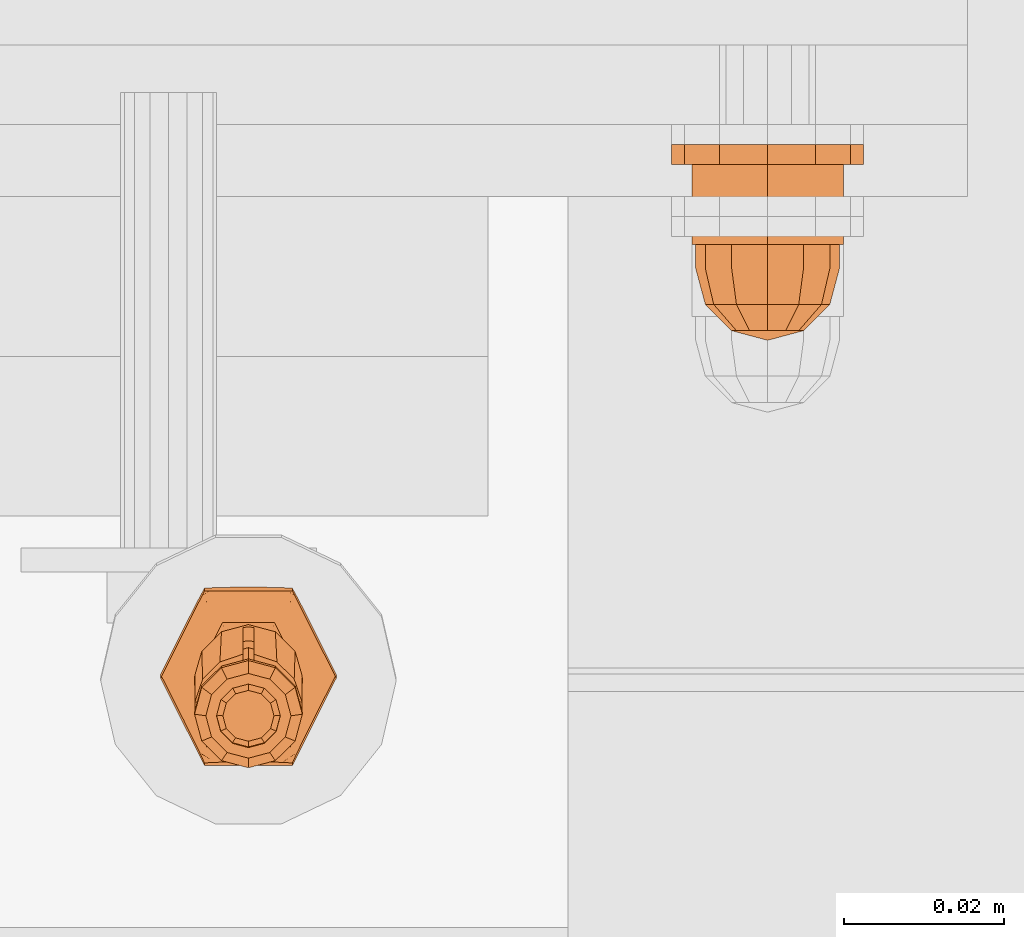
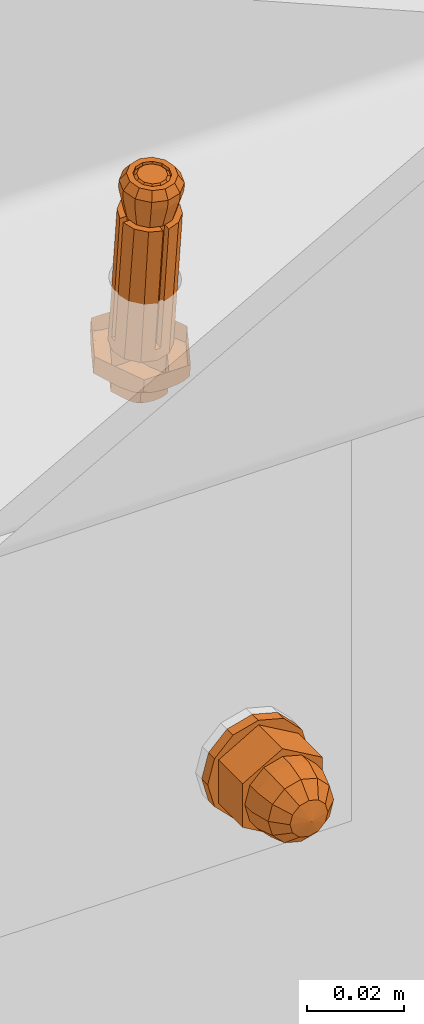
# One storey, part 147 of 162: 3 proxies.
"""IFC2X3 building model written with IfcOpenShell, lengths in millimetres."""

from ifc_helpers import new_model, entity, si_unit, converted_unit, origin_with_axes, place, context, project, spatial, faceted_brep, material, element, save


model = new_model("IFC2X3")

# Units and contexts
model_context = context("Model", 3, precision=1e-09, world=origin_with_axes())
ifc_project = project(units=[si_unit("LENGTHUNIT", "METRE", prefix="MILLI"), si_unit("AREAUNIT", "SQUARE_METRE"), si_unit("VOLUMEUNIT", "CUBIC_METRE"), converted_unit("PLANEANGLEUNIT", "DEGREE", entity("IfcPlaneAngleMeasure", 0.01745329), si_unit("PLANEANGLEUNIT", "RADIAN"), dimensions=[0, 0, 0, 0, 0, 0, 0])], contexts=[model_context])

# Site, building, storey
site_placement = place(None, origin_with_axes())
site = spatial("IfcSite", under=ifc_project, at=site_placement, Name="Hermannstra?e 1a, 60318 Frankfurt", CompositionType="ELEMENT")
building_placement = place(site_placement, origin_with_axes())
building = spatial("IfcBuilding", under=site, at=building_placement, Name="Struktur 1", CompositionType="ELEMENT")
storey_placement = place(building_placement, origin_with_axes())
storey = spatial("IfcBuildingStorey", under=building, at=storey_placement, Name="Default Storey", CompositionType="ELEMENT", Elevation=0.0)

# Proxies
ifc_material_1 = material(Name="S235JR")
proxy_1_placement = place(None, origin_with_axes())
element("IfcBuildingElementProxy", 1, at=proxy_1_placement, inside=storey, material=ifc_material_1, ObjectType="-", context=model_context, shape_type="Brep", body=[
    faceted_brep([(5637.309364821, 2645.676765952, 17429.830818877), (5636.509364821, 2645.593143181, 17430.626436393), (5636.080646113, 2644.001908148, 17430.459190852), (5636.773466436, 2643.687722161, 17429.621761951), (5634.909364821, 2642.837043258, 17430.336758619), (5635.309364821, 2642.231641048, 17429.468721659), (5631.709364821, 2648.349243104, 17430.916114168), (5630.538083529, 2647.184378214, 17430.793681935), (5630.109364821, 2645.593143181, 17430.626436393), (5630.538083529, 2644.001908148, 17430.459190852), (5631.709364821, 2642.837043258, 17430.336758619), (5633.309364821, 2642.410673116, 17430.291945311), (5636.080646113, 2647.184378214, 17430.793681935), (5634.909364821, 2648.349243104, 17430.916114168), (5633.309364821, 2648.775613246, 17430.960927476), (5636.773466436, 2647.665809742, 17430.039875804), (5633.309364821, 2641.69867837, 17429.412705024), (5637.309364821, 2650.150584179, 17387.265281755), (5636.773466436, 2648.161540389, 17387.056224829), (5636.773466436, 2652.13962797, 17387.474338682), (5635.309364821, 2649.121890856, 17430.192916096), (5635.309364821, 2646.705459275, 17386.903184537), (5629.845263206, 2643.687722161, 17429.621761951), (5629.309364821, 2645.676765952, 17429.830818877), (5631.309364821, 2642.231641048, 17429.468721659), (5633.309364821, 2649.654853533, 17430.24893273), (5631.309364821, 2649.121890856, 17430.192916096), (5629.845263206, 2647.665809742, 17430.039875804), (5635.309364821, 2653.595709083, 17387.627378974), (5633.309364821, 2646.172496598, 17386.847167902), (5637.63949184, 2647.664279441, 17387.003960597), (5638.309364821, 2650.150584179, 17387.265281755), (5637.63949184, 2652.636888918, 17387.526602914), (5635.809364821, 2654.456990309, 17387.717903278), (5633.309364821, 2655.123193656, 17387.787924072), (5630.809364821, 2654.456990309, 17387.717903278), (5628.979237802, 2652.636888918, 17387.526602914), (5628.309364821, 2650.150584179, 17387.265281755), (5628.979237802, 2647.664279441, 17387.003960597), (5630.809364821, 2645.844178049, 17386.812660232), (5633.309364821, 2645.177974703, 17386.742639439), (5635.809364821, 2645.844178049, 17386.812660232), (5631.309364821, 2646.705459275, 17386.903184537), (5629.845263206, 2648.161540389, 17387.056224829), (5629.309364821, 2650.150584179, 17387.265281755), (5629.845263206, 2652.13962797, 17387.474338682), (5631.309364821, 2653.595709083, 17387.627378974), (5633.309364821, 2654.128671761, 17387.683395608), (5638.263592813, 2649.312036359, 17388.785960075), (5638.263592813, 2650.654640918, 17388.927073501), (5637.522275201, 2649.316515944, 17420.962695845), (5636.002204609, 2650.82825943, 17421.121586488), (5638.263592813, 2645.967125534, 17420.610660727), (5637.522275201, 2643.960339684, 17420.399739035), (5636.002204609, 2642.448596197, 17420.240848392), (5638.304272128, 2649.758962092, 17388.832933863), (5638.304272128, 2650.207715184, 17388.880099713), (5638.263592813, 2647.309730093, 17420.751774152), (5633.984364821, 2651.565516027, 17421.199075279), (5633.984364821, 2654.910426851, 17389.374374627), (5636.877629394, 2640.940070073, 17420.082295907), (5639.039110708, 2643.089710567, 17420.308232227), (5640.025530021, 2645.967125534, 17420.610660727), (5633.984364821, 2641.711339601, 17420.163359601), (5633.984364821, 2639.959054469, 17419.979187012), (5633.984364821, 2645.056250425, 17388.338658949), (5640.025530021, 2649.312036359, 17388.785960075), (5640.055602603, 2649.759238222, 17388.832962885), (5640.055602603, 2650.207439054, 17388.880070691), (5640.025530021, 2650.654640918, 17388.927073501), (5632.634364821, 2645.056250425, 17388.338658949), (5632.634364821, 2654.910426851, 17389.374374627), (5640.025530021, 2647.309730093, 17420.751774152), (5639.039110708, 2650.18714506, 17421.054202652), (5636.877629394, 2652.336785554, 17421.280138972), (5633.984364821, 2653.317801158, 17421.383247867), (5633.534977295, 2654.950883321, 17389.378626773), (5633.083752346, 2654.950883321, 17389.378626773), (5633.534977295, 2645.015793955, 17388.334406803), (5628.355136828, 2649.312036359, 17388.785960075), (5633.083752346, 2645.015793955, 17388.334406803), (5629.09645444, 2643.960339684, 17420.399739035), (5630.616525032, 2642.448596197, 17420.240848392), (5632.634364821, 2641.711339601, 17420.163359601), (5632.634364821, 2651.565516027, 17421.199075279), (5630.616525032, 2650.82825943, 17421.121586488), (5629.09645444, 2649.316515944, 17420.962695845), (5628.355136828, 2647.309730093, 17420.751774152), (5628.355136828, 2650.654640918, 17388.927073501), (5640.059364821, 2650.306426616, 17385.78254002), (5633.984364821, 2656.662711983, 17389.558547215), (5633.534699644, 2656.692619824, 17389.561690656), (5633.084029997, 2656.692619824, 17389.561690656), (5632.634364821, 2656.662711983, 17389.558547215), (5639.155036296, 2646.949915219, 17385.429756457), (5632.634364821, 2643.303965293, 17388.154486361), (5633.084029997, 2643.274057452, 17388.15134292), (5633.534699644, 2643.274057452, 17388.15134292), (5633.984364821, 2643.303965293, 17388.154486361), (5628.314457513, 2649.758962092, 17388.832933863), (5628.355136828, 2645.967125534, 17420.610660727), (5632.634364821, 2639.959054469, 17419.979187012), (5632.634364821, 2653.317801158, 17421.383247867), (5629.741100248, 2652.336785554, 17421.280138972), (5627.579618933, 2650.18714506, 17421.054202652), (5626.59319962, 2647.309730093, 17420.751774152), (5628.314457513, 2650.207715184, 17388.880099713), (5639.155036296, 2653.662938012, 17386.135323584), (5636.684364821, 2656.120074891, 17386.393579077), (5636.684364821, 2644.49277834, 17385.171500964), (5626.59319962, 2650.654640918, 17388.927073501), (5626.563127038, 2650.207439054, 17388.880070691), (5626.563127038, 2649.759238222, 17388.832962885), (5626.59319962, 2649.312036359, 17388.785960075), (5626.59319962, 2645.967125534, 17420.610660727), (5633.309364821, 2643.593403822, 17385.076972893), (5627.579618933, 2643.089710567, 17420.308232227), (5629.741100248, 2640.940070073, 17420.082295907), (5633.309364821, 2657.019449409, 17386.488107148), (5629.934364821, 2644.49277834, 17385.171500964), (5627.463693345, 2646.949915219, 17385.429756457), (5626.559364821, 2650.306426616, 17385.78254002), (5627.463693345, 2653.662938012, 17386.135323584), (5629.934364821, 2656.120074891, 17386.393579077), (5637.576718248, 2639.76612164, 17380.83234845), (5639.379229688, 2640.92273113, 17380.731479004), (5638.809364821, 2639.689819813, 17381.55831184), (5639.092840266, 2640.767734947, 17380.704156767), (5640.033375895, 2642.275185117, 17380.379874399), (5641.472980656, 2645.172295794, 17380.360449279), (5644.309364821, 2650.773352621, 17381.340035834), (5644.309364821, 2650.306426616, 17385.78254002), (5638.809364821, 2639.366685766, 17384.632726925), (5627.809364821, 2639.689819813, 17381.55831184), (5629.042011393, 2639.76612164, 17380.83234845), (5630.418054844, 2639.807365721, 17380.439937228), (5633.309364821, 2639.833611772, 17380.190222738), (5636.200674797, 2639.807365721, 17380.439937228), (5627.809364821, 2639.366685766, 17384.632726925), (5638.578445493, 2641.720111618, 17380.166489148), (5641.472980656, 2656.455680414, 17381.546380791), (5640.033375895, 2659.285443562, 17382.167724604), (5639.379229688, 2660.535240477, 17382.7928368), (5638.809364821, 2661.569301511, 17383.857938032), (5638.809364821, 2661.246167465, 17386.932353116), (5643.847526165, 2650.79643214, 17381.120448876), (5637.576718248, 2661.645603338, 17383.131974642), (5630.418054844, 2661.686847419, 17382.73956342), (5629.042011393, 2661.645603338, 17383.131974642), (5627.809364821, 2661.569301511, 17383.857938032), (5627.809364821, 2661.246167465, 17386.932353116), (5636.200674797, 2661.686847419, 17382.73956342), (5633.309364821, 2661.71309347, 17382.48984893), (5633.309364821, 2640.315999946, 17380.018911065), (5627.239499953, 2640.92273113, 17380.731479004), (5627.525889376, 2640.767734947, 17380.704156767), (5637.984364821, 2642.766586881, 17380.053939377), (5642.659364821, 2650.819566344, 17380.900341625), (5639.092840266, 2660.692530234, 17382.798337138), (5625.145748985, 2645.172295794, 17380.360449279), (5626.585353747, 2642.275185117, 17380.379874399), (5622.309364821, 2650.306426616, 17385.78254002), (5622.309364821, 2650.773352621, 17381.340035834), (5628.040284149, 2641.720111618, 17380.166489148), (5641.406702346, 2646.170176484, 17380.411671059), (5633.309364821, 2641.520786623, 17379.923000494), (5638.578445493, 2659.872752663, 17382.074408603), (5627.525889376, 2660.692530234, 17382.798337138), (5627.239499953, 2660.535240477, 17382.7928368), (5625.145748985, 2656.455680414, 17381.546380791), (5626.585353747, 2659.285443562, 17382.167724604), (5628.634364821, 2642.766586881, 17380.053939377), (5625.212027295, 2646.170176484, 17380.411671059), (5623.959364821, 2650.819566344, 17380.900341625), (5625.212027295, 2655.468956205, 17381.389012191), (5628.634364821, 2658.872545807, 17381.746743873), (5633.309364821, 2660.118346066, 17381.877682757), (5637.984364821, 2658.872545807, 17381.746743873), (5641.406702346, 2655.468956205, 17381.389012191), (5636.559364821, 2644.355174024, 17380.220906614), (5639.809364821, 2650.819566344, 17380.900341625), (5636.559364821, 2657.283958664, 17381.579776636), (5630.059364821, 2657.283958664, 17381.579776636), (5626.809364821, 2650.819566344, 17380.900341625), (5630.059364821, 2644.355174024, 17380.220906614), (5635.830982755, 2644.956967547, 17374.49522371), (5636.896103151, 2645.64041861, 17374.435619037), (5636.559364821, 2644.911880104, 17374.924202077), (5637.282644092, 2646.439595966, 17374.227852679), (5638.133319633, 2648.151525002, 17374.216374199), (5639.809364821, 2651.4612404, 17374.7952208), (5633.309364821, 2661.276864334, 17382.221986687), (5628.040284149, 2659.872752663, 17382.074408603), (5630.787746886, 2644.956967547, 17374.49522371), (5631.600863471, 2644.98133905, 17374.263344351), (5633.309364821, 2644.99684808, 17374.115785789), (5635.01786617, 2644.98133905, 17374.263344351), (5630.059364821, 2644.911880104, 17374.924202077), (5636.726873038, 2645.548829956, 17374.419474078), (5639.53646016, 2651.474878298, 17374.66546487), (5622.771203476, 2650.79643214, 17381.120448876), (5636.422912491, 2646.111597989, 17374.101761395), (5638.834364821, 2651.488548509, 17374.535401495), (5638.133319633, 2654.818979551, 17374.917151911), (5636.559364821, 2657.840664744, 17376.283072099), (5637.282644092, 2656.49111232, 17375.284309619), (5636.896103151, 2657.229628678, 17375.653694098), (5638.094155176, 2648.741181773, 17374.246641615), (5635.830982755, 2657.885752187, 17375.854093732), (5635.01786617, 2657.91012369, 17375.622214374), (5633.309364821, 2657.92563272, 17375.474655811), (5631.600863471, 2657.91012369, 17375.622214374), (5630.787746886, 2657.885752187, 17375.854093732), (5630.059364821, 2657.840664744, 17376.283072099), (5629.72262649, 2645.64041861, 17374.435619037), (5633.309364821, 2645.281895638, 17374.014556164), (5636.071864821, 2646.729969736, 17374.035254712), (5628.524574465, 2654.235915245, 17374.824161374), (5630.546864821, 2656.247127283, 17375.035548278), (5633.309364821, 2656.983281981, 17375.112921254), (5636.071864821, 2656.247127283, 17375.035548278), (5638.094155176, 2654.235915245, 17374.824161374), (5633.309364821, 2645.993815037, 17373.957881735), (5630.546864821, 2646.729969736, 17374.035254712), (5628.524574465, 2648.741181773, 17374.246641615), (5627.784364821, 2651.488548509, 17374.535401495), (5636.726873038, 2657.322572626, 17375.656944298), (5629.891856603, 2645.548829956, 17374.419474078), (5628.485410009, 2648.151525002, 17374.216374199), (5629.33608555, 2646.439595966, 17374.227852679), (5626.809364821, 2651.4612404, 17374.7952208), (5636.422912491, 2656.838158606, 17375.229168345), (5629.72262649, 2657.229628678, 17375.653694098), (5630.195817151, 2646.111597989, 17374.101761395), (5633.309364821, 2657.667860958, 17375.316373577), (5629.891856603, 2657.322572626, 17375.656944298), (5629.33608555, 2656.49111232, 17375.284309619), (5628.485410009, 2654.818979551, 17374.917151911), (5630.195817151, 2656.838158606, 17375.229168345), (5627.082269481, 2651.474878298, 17374.66546487)], [[[0, 1, 2, 3]], [[3, 2, 4, 5]], [[6, 7, 8, 9, 10, 11, 4, 2, 1, 12, 13, 14]], [[1, 0, 15, 12]], [[5, 4, 11, 16]], [[17, 0, 3, 18]], [[19, 15, 0, 17]], [[12, 15, 20, 13]], [[18, 3, 5, 21]], [[22, 9, 8, 23]], [[24, 10, 9, 22]], [[16, 11, 10, 24]], [[25, 14, 13, 20]], [[26, 6, 14, 25]], [[27, 7, 6, 26]], [[23, 8, 7, 27]], [[15, 19, 28, 20]], [[21, 5, 16, 29]], [[30, 31, 32, 33, 34, 35, 36, 37, 38, 39, 40, 41], [21, 29, 42, 43, 44, 45, 46, 47, 28, 19, 17, 18]], [[20, 28, 47, 25]], [[43, 22, 23, 44]], [[42, 24, 22, 43]], [[29, 16, 24, 42]], [[46, 26, 25, 47]], [[45, 27, 26, 46]], [[44, 23, 27, 45]], [[31, 30, 48]], [[32, 31, 49]], [[33, 32, 50, 51]], [[52, 30, 53]], [[30, 41, 54, 53]], [[48, 30, 52]], [[55, 31, 48]], [[56, 31, 55]], [[49, 31, 56]], [[57, 32, 49]], [[50, 32, 57]], [[58, 33, 51]], [[34, 33, 59]], [[60, 61, 62, 52, 53, 54, 63, 64]], [[41, 40, 65]], [[54, 41, 63]], [[48, 52, 62, 66]], [[56, 55, 48, 66, 67, 68, 69, 49]], [[40, 39, 70]], [[35, 34, 71]], [[57, 49, 69, 72]], [[73, 74, 75, 58, 51, 50, 57, 72]], [[59, 33, 58]], [[76, 34, 59]], [[77, 34, 76]], [[65, 40, 78]], [[63, 41, 65]], [[38, 37, 79]], [[80, 40, 70]], [[78, 40, 80]], [[39, 38, 81, 82]], [[70, 39, 83]], [[71, 34, 77]], [[84, 35, 71]], [[36, 35, 85, 86]], [[87, 36, 86]], [[37, 36, 88]], [[68, 67, 89]], [[59, 58, 75, 90]], [[77, 76, 59, 90, 91, 92, 93, 71]], [[62, 61, 94]], [[95, 96, 97, 98, 65, 78, 80, 70]], [[63, 65, 98, 64]], [[94, 66, 62]], [[67, 66, 89]], [[79, 37, 99]], [[100, 38, 79]], [[81, 38, 100]], [[70, 83, 101, 95]], [[83, 39, 82]], [[84, 71, 93, 102]], [[85, 35, 84]], [[103, 104, 105, 87, 86, 85, 84, 102]], [[88, 36, 87]], [[106, 37, 88]], [[99, 37, 106]], [[89, 69, 68]], [[72, 69, 107]], [[73, 72, 107]], [[108, 74, 73, 107]], [[75, 74, 108]], [[94, 61, 60, 109]], [[60, 64, 109]], [[89, 66, 94]], [[110, 111, 112, 113, 79, 99, 106, 88]], [[100, 79, 113, 114]], [[97, 96, 115]], [[116, 117, 101, 83, 82, 81, 100, 114]], [[92, 91, 118]], [[88, 87, 105, 110]], [[107, 69, 89]], [[108, 90, 75]], [[91, 90, 118]], [[115, 98, 97]], [[64, 98, 109]], [[94, 109, 115, 119, 120, 121, 122, 123, 118, 108, 107, 89]], [[119, 95, 101]], [[96, 95, 115]], [[101, 117, 119]], [[118, 93, 92]], [[102, 93, 123]], [[105, 104, 122]], [[112, 111, 121]], [[118, 90, 108]], [[109, 98, 115]], [[121, 113, 112]], [[114, 113, 120]], [[115, 95, 119]], [[116, 114, 120]], [[119, 117, 116, 120]], [[124, 125, 126]], [[127, 125, 124]], [[127, 128, 125]], [[129, 130, 131, 132, 126, 125, 128]], [[123, 93, 118]], [[103, 102, 123]], [[122, 104, 103, 123]], [[122, 110, 105]], [[111, 110, 121]], [[120, 113, 121]], [[133, 134, 135, 136, 137, 124, 126, 132, 138]], [[137, 127, 124]], [[139, 128, 127]], [[121, 110, 122]], [[140, 141, 142, 143, 144, 131, 130]], [[139, 127, 137]], [[139, 129, 128]], [[129, 145, 130]], [[143, 142, 146]], [[147, 148, 149, 150, 144, 143, 146, 151, 152]], [[137, 136, 153]], [[133, 154, 134]], [[155, 135, 134]], [[134, 154, 155]], [[153, 139, 137]], [[156, 129, 139]], [[157, 145, 129]], [[145, 140, 130]], [[142, 141, 158]], [[146, 142, 158]], [[159, 160, 154, 133, 138, 161, 162]], [[136, 135, 153]], [[163, 135, 155]], [[154, 160, 155]], [[129, 156, 164]], [[156, 139, 153, 165]], [[164, 157, 129]], [[157, 140, 145]], [[158, 141, 166]], [[158, 151, 146]], [[147, 167, 148]], [[167, 168, 148]], [[148, 168, 149]], [[169, 162, 161, 150, 149, 168, 170]], [[153, 135, 163]], [[155, 160, 163]], [[165, 171, 172, 173, 174, 175, 176, 177, 178, 157, 164, 156], [179, 180, 181, 182, 183, 184]], [[185, 186, 187]], [[180, 179, 187, 186, 188, 189, 190]], [[140, 157, 178]], [[140, 166, 141]], [[166, 151, 158]], [[152, 151, 191]], [[147, 152, 191]], [[192, 167, 147]], [[167, 170, 168]], [[165, 153, 163, 171]], [[159, 163, 160]], [[193, 194, 195, 196, 185, 187, 179, 184, 197]], [[198, 186, 185]], [[198, 188, 186]], [[189, 199, 190]], [[178, 177, 140]], [[177, 166, 140]], [[191, 151, 166]], [[191, 192, 147]], [[192, 170, 167]], [[200, 159, 162]], [[171, 163, 159]], [[196, 198, 185]], [[201, 188, 198]], [[202, 199, 189]], [[199, 203, 190]], [[204, 181, 180, 190, 203, 205, 206]], [[166, 177, 176, 191]], [[175, 192, 191, 176]], [[192, 169, 170]], [[169, 200, 162]], [[173, 159, 200]], [[172, 171, 159]], [[201, 198, 196]], [[201, 189, 188]], [[207, 202, 189]], [[204, 206, 208]], [[202, 203, 199]], [[182, 181, 204, 208, 209, 210, 211, 212, 213]], [[175, 169, 192]], [[159, 173, 172]], [[173, 200, 169]], [[197, 214, 193]], [[196, 195, 215]], [[215, 201, 196]], [[216, 189, 201]], [[189, 216, 207]], [[217, 218, 219, 220, 221, 202, 207, 216, 222, 223, 224, 225]], [[206, 205, 226]], [[208, 206, 226]], [[203, 202, 221]], [[169, 175, 174]], [[174, 173, 169]], [[227, 194, 193]], [[193, 214, 227]], [[228, 229, 214, 197, 184, 183, 230]], [[195, 194, 215]], [[216, 201, 215, 222]], [[226, 205, 231]], [[226, 209, 208]], [[221, 220, 203]], [[203, 231, 205]], [[212, 232, 213]], [[233, 194, 227]], [[214, 229, 227]], [[215, 194, 233]], [[231, 209, 226]], [[220, 231, 203]], [[210, 209, 234]], [[211, 235, 212]], [[235, 232, 212]], [[183, 182, 213, 232, 236, 237, 230]], [[227, 229, 233]], [[222, 215, 233, 223]], [[234, 209, 231]], [[231, 220, 219, 234]], [[211, 210, 234]], [[238, 235, 211]], [[235, 236, 232]], [[239, 228, 230]], [[228, 233, 229]], [[237, 239, 230]], [[234, 238, 211]], [[238, 236, 235]], [[225, 228, 239]], [[223, 233, 228]], [[234, 219, 218, 238]], [[225, 239, 237]], [[238, 237, 236]], [[228, 225, 224]], [[224, 223, 228]], [[217, 225, 237]], [[218, 237, 238]], [[237, 218, 217]]]),
    faceted_brep([(5635.976031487, 2650.186643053, 17431.109232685), (5636.684364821, 2651.615848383, 17429.248431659), (5633.309364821, 2652.515222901, 17429.34295973), (5633.309364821, 2650.897259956, 17431.183921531), (5633.309364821, 2652.724279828, 17427.353915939), (5633.309364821, 2651.942544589, 17421.238702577), (5630.642698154, 2651.231927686, 17421.164013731), (5629.934364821, 2651.82490531, 17427.259387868), (5637.928166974, 2648.245201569, 17430.905178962), (5639.155036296, 2649.158711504, 17428.990176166), (5630.642698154, 2650.186643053, 17431.109232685), (5628.690562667, 2648.245201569, 17430.905178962), (5627.976031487, 2645.593143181, 17430.626436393), (5628.690562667, 2642.941084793, 17430.347693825), (5630.642698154, 2640.999643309, 17430.143640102), (5633.309364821, 2640.289026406, 17430.068951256), (5635.976031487, 2640.999643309, 17430.143640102), (5637.928166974, 2642.941084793, 17430.347693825), (5638.642698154, 2645.593143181, 17430.626436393), (5636.773466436, 2647.582186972, 17430.83549332), (5637.309364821, 2645.593143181, 17430.626436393), (5636.773466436, 2643.60409939, 17430.417379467), (5635.309364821, 2642.148018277, 17430.264339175), (5633.309364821, 2641.615055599, 17430.20832254), (5631.309364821, 2642.148018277, 17430.264339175), (5629.845263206, 2643.60409939, 17430.417379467), (5629.309364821, 2645.593143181, 17430.626436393), (5629.845263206, 2647.582186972, 17430.83549332), (5631.309364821, 2649.038268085, 17430.988533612), (5633.309364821, 2649.571230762, 17431.044550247), (5635.309364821, 2649.038268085, 17430.988533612), (5635.976031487, 2651.231927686, 17421.164013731), (5637.928166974, 2649.290486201, 17420.959960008), (5638.642698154, 2646.638427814, 17420.68121744), (5637.928166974, 2643.986369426, 17420.402474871), (5635.976031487, 2642.044927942, 17420.198421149), (5633.309364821, 2641.334311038, 17420.123732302), (5630.642698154, 2642.044927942, 17420.198421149), (5628.690562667, 2643.986369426, 17420.402474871), (5627.976031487, 2646.638427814, 17420.68121744), (5628.690562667, 2649.290486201, 17420.959960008), (5636.684364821, 2651.82490531, 17427.259387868), (5633.309364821, 2650.616515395, 17421.099331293), (5635.309364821, 2650.083552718, 17421.043314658), (5631.309364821, 2650.083552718, 17421.043314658), (5629.934364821, 2651.615848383, 17429.248431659), (5627.463693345, 2649.367768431, 17427.001132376), (5640.059364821, 2645.802200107, 17428.637392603), (5639.155036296, 2649.367768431, 17427.001132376), (5636.773466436, 2648.627471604, 17420.890274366), (5629.845263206, 2648.627471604, 17420.890274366), (5627.463693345, 2649.158711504, 17428.990176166), (5626.559364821, 2646.011257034, 17426.648348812), (5639.155036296, 2642.445688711, 17428.284609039), (5640.059364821, 2646.011257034, 17426.648348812), (5637.309364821, 2646.638427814, 17420.68121744), (5629.309364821, 2646.638427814, 17420.68121744), (5636.773466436, 2644.649384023, 17420.472160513), (5626.559364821, 2645.802200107, 17428.637392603), (5635.309364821, 2643.19330291, 17420.319120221), (5627.463693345, 2642.654745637, 17426.295565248), (5629.845263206, 2644.649384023, 17420.472160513), (5631.309364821, 2643.19330291, 17420.319120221), (5633.309364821, 2642.660340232, 17420.263103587), (5636.684364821, 2639.988551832, 17428.026353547), (5639.155036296, 2642.654745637, 17426.295565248), (5627.463693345, 2642.445688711, 17428.284609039), (5629.934364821, 2640.197608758, 17426.037309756), (5633.309364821, 2639.089177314, 17427.931825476), (5636.684364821, 2640.197608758, 17426.037309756), (5629.934364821, 2639.988551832, 17428.026353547), (5633.309364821, 2639.29823424, 17425.942781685)], [[[0, 1, 2, 3]], [[4, 5, 6, 7]], [[1, 0, 8, 9]], [[8, 0, 3, 10, 11, 12, 13, 14, 15, 16, 17, 18], [19, 20, 21, 22, 23, 24, 25, 26, 27, 28, 29, 30]], [[31, 32, 33, 34, 35, 36, 37, 38, 39, 40, 6, 5]], [[5, 4, 41, 31]], [[29, 42, 43, 30]], [[4, 2, 1, 41]], [[42, 29, 28, 44]], [[3, 2, 45, 10]], [[2, 4, 7, 45]], [[7, 6, 40, 46]], [[9, 8, 18, 47]], [[41, 1, 9, 48]], [[30, 43, 49, 19]], [[31, 41, 48, 32]], [[44, 28, 27, 50]], [[10, 45, 51, 11]], [[45, 7, 46, 51]], [[46, 40, 39, 52]], [[47, 18, 17, 53]], [[48, 9, 47, 54]], [[55, 20, 19, 49]], [[32, 48, 54, 33]], [[26, 56, 50, 27]], [[20, 55, 57, 21]], [[11, 51, 58, 12]], [[51, 46, 52, 58]], [[59, 22, 21, 57]], [[52, 39, 38, 60]], [[25, 61, 56, 26]], [[24, 62, 61, 25]], [[63, 23, 22, 59]], [[53, 17, 16, 64]], [[54, 47, 53, 65]], [[33, 54, 65, 34]], [[23, 63, 62, 24]], [[12, 58, 66, 13]], [[58, 52, 60, 66]], [[60, 38, 37, 67]], [[64, 16, 15, 68]], [[65, 53, 64, 69]], [[34, 65, 69, 35]], [[13, 66, 70, 14]], [[66, 60, 67, 70]], [[71, 36, 35, 69]], [[67, 37, 36, 71]], [[68, 15, 14, 70]], [[69, 64, 68, 71]], [[70, 67, 71, 68]]]),
])
ifc_material_2 = material(Name="A4")
proxy_2_placement = place(None, origin_with_axes())
element("IfcBuildingElementProxy", 2, at=proxy_2_placement, inside=storey, material=ifc_material_2, ObjectType="-", context=model_context, shape_type="Brep", body=[
    faceted_brep([(5692.309364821, 2714.609373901, 17216.999), (5692.309364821, 2704.609373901, 17216.999), (5693.113212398, 2704.609373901, 17213.999), (5693.113212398, 2714.609373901, 17213.999), (5695.309364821, 2704.609373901, 17211.802847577), (5695.309364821, 2714.609373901, 17211.802847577), (5693.113212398, 2714.609373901, 17219.999), (5693.113212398, 2704.609373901, 17219.999), (5688.82949554, 2714.609373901, 17222.472205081), (5698.309364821, 2714.609373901, 17227.945410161), (5707.789234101, 2714.609373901, 17222.472205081), (5707.789234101, 2714.609373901, 17211.525794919), (5698.309364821, 2714.609373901, 17206.052589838), (5688.82949554, 2714.609373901, 17211.525794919), (5695.309364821, 2714.609373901, 17222.195152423), (5698.309364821, 2714.609373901, 17210.999), (5701.309364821, 2714.609373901, 17211.802847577), (5703.505517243, 2714.609373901, 17213.999), (5704.309364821, 2714.609373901, 17216.999), (5703.505517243, 2714.609373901, 17219.999), (5701.309364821, 2714.609373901, 17222.195152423), (5698.309364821, 2714.609373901, 17222.999), (5698.309364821, 2704.609373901, 17227.945410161), (5688.82949554, 2704.609373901, 17222.472205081), (5688.82949554, 2704.609373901, 17211.525794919), (5698.309364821, 2704.609373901, 17206.052589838), (5707.789234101, 2704.609373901, 17211.525794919), (5707.789234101, 2704.609373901, 17222.472205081), (5695.309364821, 2704.609373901, 17222.195152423), (5698.309364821, 2704.609373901, 17222.999), (5701.309364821, 2704.609373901, 17222.195152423), (5703.505517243, 2704.609373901, 17219.999), (5704.309364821, 2704.609373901, 17216.999), (5703.505517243, 2704.609373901, 17213.999), (5701.309364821, 2704.609373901, 17211.802847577), (5698.309364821, 2704.609373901, 17210.999)], [[[0, 1, 2, 3]], [[3, 2, 4, 5]], [[1, 0, 6, 7]], [[8, 9, 10, 11, 12, 13], [14, 6, 0, 3, 5, 15, 16, 17, 18, 19, 20, 21]], [[22, 23, 24, 25, 26, 27], [1, 7, 28, 29, 30, 31, 32, 33, 34, 35, 4, 2]], [[7, 6, 14, 28]], [[24, 23, 8, 13]], [[5, 4, 35, 15]], [[13, 12, 25, 24]], [[28, 14, 21, 29]], [[23, 22, 9, 8]], [[15, 35, 34, 16]], [[12, 11, 26, 25]], [[29, 21, 20, 30]], [[22, 27, 10, 9]], [[16, 34, 33, 17]], [[27, 26, 11, 10]], [[30, 20, 19, 31]], [[17, 33, 32, 18]], [[31, 19, 18, 32]]]),
    faceted_brep([(5698.309364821, 2704.609373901, 17225.999), (5698.309364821, 2701.609373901, 17225.999), (5702.809364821, 2701.609373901, 17224.793228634), (5702.809364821, 2704.609373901, 17224.793228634), (5693.809364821, 2704.609373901, 17224.793228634), (5693.809364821, 2701.609373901, 17224.793228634), (5690.515136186, 2701.609373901, 17212.499), (5693.809364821, 2701.609373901, 17209.204771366), (5698.309364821, 2701.609373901, 17207.999), (5702.809364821, 2701.609373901, 17209.204771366), (5706.103593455, 2701.609373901, 17212.499), (5707.309364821, 2701.609373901, 17216.999), (5706.103593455, 2701.609373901, 17221.499), (5690.515136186, 2701.609373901, 17221.499), (5689.309364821, 2701.609373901, 17216.999), (5706.103593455, 2704.609373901, 17212.499), (5702.809364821, 2704.609373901, 17209.204771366), (5698.309364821, 2704.609373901, 17207.999), (5693.809364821, 2704.609373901, 17209.204771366), (5690.515136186, 2704.609373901, 17212.499), (5689.309364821, 2704.609373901, 17216.999), (5690.515136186, 2704.609373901, 17221.499), (5706.103593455, 2704.609373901, 17221.499), (5707.309364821, 2704.609373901, 17216.999)], [[[0, 1, 2, 3]], [[1, 0, 4, 5]], [[6, 7, 8, 9, 10, 11, 12, 2, 1, 5, 13, 14]], [[15, 16, 17, 18, 19, 20, 21, 4, 0, 3, 22, 23]], [[3, 2, 12, 22]], [[5, 4, 21, 13]], [[22, 12, 11, 23]], [[13, 21, 20, 14]], [[7, 18, 17, 8]], [[19, 6, 14, 20]], [[18, 7, 6, 19]], [[23, 11, 10, 15]], [[8, 17, 16, 9]], [[15, 10, 9, 16]]]),
    faceted_brep([(5690.515136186, 2701.609373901, 17221.499), (5691.559364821, 2697.109373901, 17220.896114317), (5694.412250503, 2697.109373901, 17223.749), (5693.809364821, 2701.609373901, 17224.793228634), (5706.103593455, 2701.609373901, 17212.499), (5702.809364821, 2701.609373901, 17209.204771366), (5698.309364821, 2701.609373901, 17207.999), (5693.809364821, 2701.609373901, 17209.204771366), (5690.515136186, 2701.609373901, 17212.499), (5689.309364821, 2701.609373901, 17216.999), (5698.309364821, 2701.609373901, 17225.999), (5702.809364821, 2701.609373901, 17224.793228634), (5706.103593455, 2701.609373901, 17221.499), (5707.309364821, 2701.609373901, 17216.999), (5698.309364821, 2697.109373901, 17224.793228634), (5690.515136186, 2697.109373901, 17216.999), (5693.809364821, 2693.815145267, 17216.999), (5694.412250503, 2693.815145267, 17219.249), (5702.206479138, 2697.109373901, 17223.749), (5696.059364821, 2693.815145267, 17220.896114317), (5691.559364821, 2697.109373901, 17213.101885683), (5694.412250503, 2693.815145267, 17214.749), (5698.309364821, 2693.815145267, 17221.499), (5698.309364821, 2692.609373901, 17216.999), (5694.412250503, 2697.109373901, 17210.249), (5696.059364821, 2693.815145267, 17213.101885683), (5698.309364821, 2697.109373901, 17209.204771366), (5705.059364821, 2697.109373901, 17220.896114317), (5700.559364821, 2693.815145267, 17220.896114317), (5698.309364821, 2693.815145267, 17212.499), (5702.206479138, 2697.109373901, 17210.249), (5700.559364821, 2693.815145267, 17213.101885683), (5706.103593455, 2697.109373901, 17216.999), (5702.206479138, 2693.815145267, 17219.249), (5705.059364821, 2697.109373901, 17213.101885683), (5702.206479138, 2693.815145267, 17214.749), (5702.809364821, 2693.815145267, 17216.999)], [[[0, 1, 2, 3]], [[4, 5, 6, 7, 8, 9, 0, 3, 10, 11, 12, 13]], [[3, 2, 14, 10]], [[15, 16, 17, 1]], [[1, 0, 9, 15]], [[10, 14, 18, 11]], [[1, 17, 19, 2]], [[16, 15, 20, 21]], [[2, 19, 22, 14]], [[23, 17, 16]], [[24, 25, 21, 20]], [[23, 16, 21]], [[24, 7, 6, 26]], [[20, 8, 7, 24]], [[15, 9, 8, 20]], [[11, 18, 27, 12]], [[14, 22, 28, 18]], [[23, 19, 17]], [[26, 29, 25, 24]], [[23, 21, 25]], [[23, 22, 19]], [[26, 6, 5, 30]], [[29, 26, 30, 31]], [[23, 25, 29]], [[12, 27, 32, 13]], [[18, 28, 33, 27]], [[23, 28, 22]], [[23, 29, 31]], [[23, 33, 28]], [[30, 5, 4, 34]], [[31, 30, 34, 35]], [[23, 31, 35]], [[13, 32, 34, 4]], [[27, 33, 36, 32]], [[23, 36, 33]], [[23, 35, 36]], [[35, 34, 32, 36]]]),
])
proxy_3_placement = place(None, origin_with_axes())
element("IfcBuildingElementProxy", 3, at=proxy_3_placement, inside=storey, material=ifc_material_2, ObjectType="-", context=model_context, shape_type="Brep", body=[
    faceted_brep([(5708.701669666, 2714.609373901, 17222.999), (5708.701669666, 2717.109373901, 17222.999), (5704.309364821, 2717.109373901, 17227.391304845), (5704.309364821, 2714.609373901, 17227.391304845), (5698.309364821, 2714.609373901, 17228.999), (5692.309364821, 2714.609373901, 17227.391304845), (5687.917059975, 2714.609373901, 17222.999), (5686.309364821, 2714.609373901, 17216.999), (5687.917059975, 2714.609373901, 17210.999), (5692.309364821, 2714.609373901, 17206.606695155), (5698.309364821, 2714.609373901, 17204.999), (5704.309364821, 2714.609373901, 17206.606695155), (5708.701669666, 2714.609373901, 17210.999), (5710.309364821, 2714.609373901, 17216.999), (5695.059364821, 2714.609373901, 17222.628165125), (5698.309364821, 2714.609373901, 17223.499), (5701.559364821, 2714.609373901, 17222.628165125), (5703.938529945, 2714.609373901, 17220.249), (5704.809364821, 2714.609373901, 17216.999), (5703.938529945, 2714.609373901, 17213.749), (5701.559364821, 2714.609373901, 17211.369834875), (5698.309364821, 2714.609373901, 17210.499), (5695.059364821, 2714.609373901, 17211.369834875), (5692.680199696, 2714.609373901, 17213.749), (5691.809364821, 2714.609373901, 17216.999), (5692.680199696, 2714.609373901, 17220.249), (5710.309364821, 2717.109373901, 17216.999), (5708.701669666, 2717.109373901, 17210.999), (5704.309364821, 2717.109373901, 17206.606695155), (5698.309364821, 2717.109373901, 17204.999), (5692.309364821, 2717.109373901, 17206.606695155), (5687.917059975, 2717.109373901, 17210.999), (5686.309364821, 2717.109373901, 17216.999), (5687.917059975, 2717.109373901, 17222.999), (5692.309364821, 2717.109373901, 17227.391304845), (5698.309364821, 2717.109373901, 17228.999), (5704.809364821, 2717.109373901, 17216.999), (5703.938529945, 2717.109373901, 17220.249), (5701.559364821, 2717.109373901, 17222.628165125), (5698.309364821, 2717.109373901, 17223.499), (5695.059364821, 2717.109373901, 17222.628165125), (5692.680199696, 2717.109373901, 17220.249), (5691.809364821, 2717.109373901, 17216.999), (5692.680199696, 2717.109373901, 17213.749), (5695.059364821, 2717.109373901, 17211.369834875), (5698.309364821, 2717.109373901, 17210.499), (5701.559364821, 2717.109373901, 17211.369834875), (5703.938529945, 2717.109373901, 17213.749)], [[[0, 1, 2, 3]], [[3, 4, 5, 6, 7, 8, 9, 10, 11, 12, 13, 0], [14, 15, 16, 17, 18, 19, 20, 21, 22, 23, 24, 25]], [[1, 26, 27, 28, 29, 30, 31, 32, 33, 34, 35, 2], [36, 37, 38, 39, 40, 41, 42, 43, 44, 45, 46, 47]], [[37, 17, 16, 38]], [[1, 0, 13, 26]], [[17, 37, 36, 18]], [[38, 16, 15, 39]], [[3, 2, 35, 4]], [[26, 13, 12, 27]], [[18, 36, 47, 19]], [[39, 15, 14, 40]], [[4, 35, 34, 5]], [[27, 12, 11, 28]], [[19, 47, 46, 20]], [[40, 14, 25, 41]], [[5, 34, 33, 6]], [[24, 42, 41, 25]], [[28, 11, 10, 29]], [[20, 46, 45, 21]], [[23, 43, 42, 24]], [[6, 33, 32, 7]], [[44, 22, 21, 45]], [[43, 23, 22, 44]], [[29, 10, 9, 30]], [[7, 32, 31, 8]], [[30, 9, 8, 31]]]),
])

save(model, "model.ifc")
